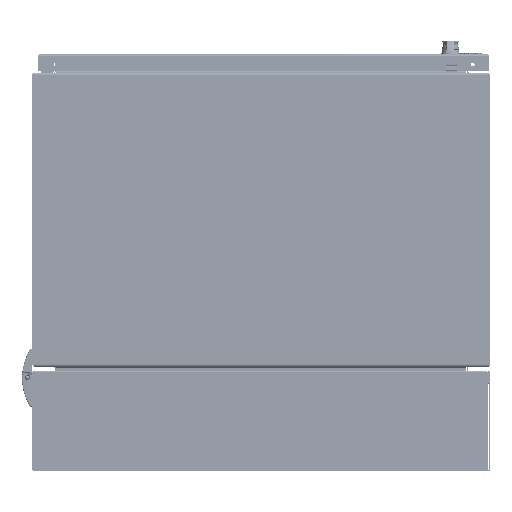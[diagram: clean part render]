
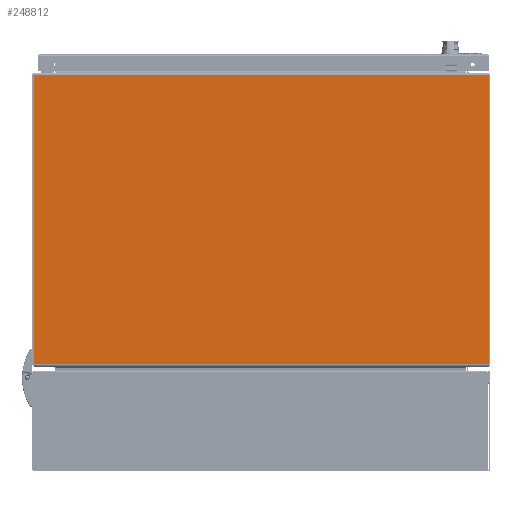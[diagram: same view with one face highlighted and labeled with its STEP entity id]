
A CAD part, front view. The second image highlights one B-rep face of the part: STEP entity #248812.
In plain terms, the highlighted planar face has unit normal (0, -1, 0).
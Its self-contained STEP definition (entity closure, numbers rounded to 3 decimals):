
#20009 = CARTESIAN_POINT ( 'NONE',  ( 348.171, 0., 225. ) ) ;
#20032 = PLANE ( 'NONE',  #525383 ) ;
#20058 = DIRECTION ( 'NONE',  ( 0., 1., 0. ) ) ;
#20062 = DIRECTION ( 'NONE',  ( 0., 0., 1. ) ) ;
#28445 = CARTESIAN_POINT ( 'NONE',  ( 348.171, 0., -225. ) ) ;
#28466 = DIRECTION ( 'NONE',  ( 0., 0., -1. ) ) ;
#28493 = CARTESIAN_POINT ( 'NONE',  ( -348.171, 0., -225. ) ) ;
#28498 = DIRECTION ( 'NONE',  ( 0., 0., 1. ) ) ;
#28691 = CARTESIAN_POINT ( 'NONE',  ( 348.171, 0., 220.885 ) ) ;
#28714 = DIRECTION ( 'NONE',  ( -1., 0., 0. ) ) ;
#28742 = CARTESIAN_POINT ( 'NONE',  ( -348.171, 0., -220.885 ) ) ;
#28747 = DIRECTION ( 'NONE',  ( 1., 0., 0. ) ) ;
#32102 = FACE_OUTER_BOUND ( 'NONE', #580797, .T. ) ;
#36468 = CARTESIAN_POINT ( 'NONE',  ( 348.171, 0., -220.885 ) ) ;
#36480 = CARTESIAN_POINT ( 'NONE',  ( 348.171, 0., 220.885 ) ) ;
#36490 = CARTESIAN_POINT ( 'NONE',  ( -348.171, 0., -220.885 ) ) ;
#36495 = CARTESIAN_POINT ( 'NONE',  ( -348.171, 0., 220.885 ) ) ;
#92116 = VERTEX_POINT ( 'NONE', #36468 ) ;
#92128 = VERTEX_POINT ( 'NONE', #36480 ) ;
#92139 = VERTEX_POINT ( 'NONE', #36490 ) ;
#92145 = VERTEX_POINT ( 'NONE', #36495 ) ;
#172212 = EDGE_CURVE ( 'NONE', #92128, #92116, #682367, .T. ) ;
#172220 = EDGE_CURVE ( 'NONE', #92139, #92145, #682400, .T. ) ;
#172260 = EDGE_CURVE ( 'NONE', #92128, #92145, #682495, .T. ) ;
#172268 = EDGE_CURVE ( 'NONE', #92139, #92116, #682524, .T. ) ;
#201574 = ORIENTED_EDGE ( 'NONE', *, *, #172268, .T. ) ;
#201582 = ORIENTED_EDGE ( 'NONE', *, *, #172212, .F. ) ;
#201590 = ORIENTED_EDGE ( 'NONE', *, *, #172260, .T. ) ;
#201598 = ORIENTED_EDGE ( 'NONE', *, *, #172220, .F. ) ;
#248812 = ADVANCED_FACE ( 'NONE', ( #32102 ), #20032, .F. ) ;
#525383 = AXIS2_PLACEMENT_3D ( 'NONE', #20009, #20058, #20062 ) ;
#580797 = EDGE_LOOP ( 'NONE', ( #201574, #201582, #201590, #201598 ) ) ;
#682367 = LINE ( 'NONE', #28445, #682404 ) ;
#682382 = VECTOR ( 'NONE', #28498, 1000. ) ;
#682400 = LINE ( 'NONE', #28493, #682382 ) ;
#682404 = VECTOR ( 'NONE', #28466, 1000. ) ;
#682495 = LINE ( 'NONE', #28691, #682520 ) ;
#682516 = VECTOR ( 'NONE', #28747, 1000. ) ;
#682520 = VECTOR ( 'NONE', #28714, 1000. ) ;
#682524 = LINE ( 'NONE', #28742, #682516 ) ;
